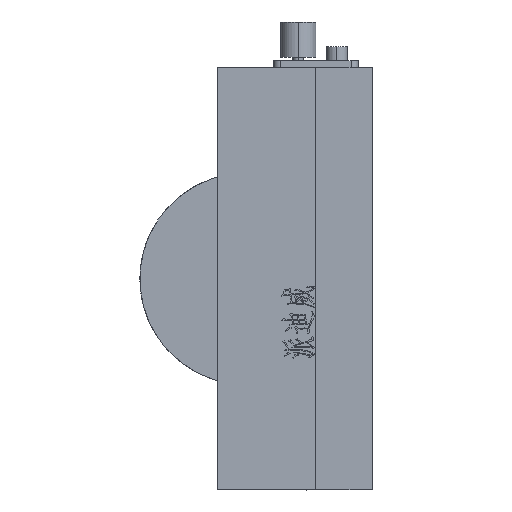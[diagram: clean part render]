
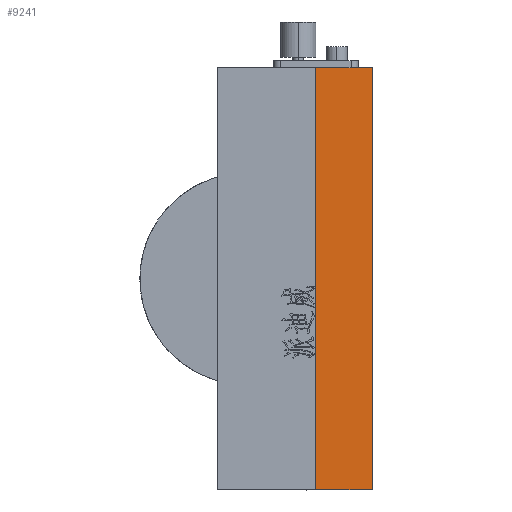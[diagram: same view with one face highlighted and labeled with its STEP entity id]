
A CAD part, left-side view. The second image highlights one B-rep face of the part: STEP entity #9241.
In plain terms, the highlighted planar face has unit normal (-1, 0, 0).
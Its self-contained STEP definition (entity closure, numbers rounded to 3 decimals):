
#1876 = AXIS2_PLACEMENT_3D ( 'NONE', #46115, #38418, #31311 ) ;
#5818 = ORIENTED_EDGE ( 'NONE', *, *, #13814, .T. ) ;
#9241 = ADVANCED_FACE ( 'NONE', ( #18880 ), #20887, .F. ) ;
#9386 = ORIENTED_EDGE ( 'NONE', *, *, #41448, .F. ) ;
#11198 = EDGE_CURVE ( 'NONE', #16312, #29770, #26873, .T. ) ;
#11235 = VECTOR ( 'NONE', #40251, 1000. ) ;
#11990 = ORIENTED_EDGE ( 'NONE', *, *, #11198, .T. ) ;
#13814 = EDGE_CURVE ( 'NONE', #29770, #38822, #33993, .T. ) ;
#16312 = VERTEX_POINT ( 'NONE', #36699 ) ;
#16961 = CARTESIAN_POINT ( 'NONE',  ( -30., 8., 30. ) ) ;
#17854 = DIRECTION ( 'NONE',  ( 0., 0., 1. ) ) ;
#18880 = FACE_OUTER_BOUND ( 'NONE', #34284, .T. ) ;
#18911 = DIRECTION ( 'NONE',  ( 0., 0., 1. ) ) ;
#19183 = CARTESIAN_POINT ( 'NONE',  ( -30., 0., 30. ) ) ;
#20832 = LINE ( 'NONE', #28918, #36128 ) ;
#20887 = PLANE ( 'NONE',  #1876 ) ;
#22297 = VERTEX_POINT ( 'NONE', #16961 ) ;
#22819 = EDGE_CURVE ( 'NONE', #22297, #38822, #43363, .T. ) ;
#25339 = ORIENTED_EDGE ( 'NONE', *, *, #22819, .F. ) ;
#25366 = DIRECTION ( 'NONE',  ( 0., -1., 0. ) ) ;
#25524 = VECTOR ( 'NONE', #18911, 1000. ) ;
#26873 = LINE ( 'NONE', #43800, #27419 ) ;
#27419 = VECTOR ( 'NONE', #25366, 1000. ) ;
#28918 = CARTESIAN_POINT ( 'NONE',  ( -30., 8., 30. ) ) ;
#29770 = VERTEX_POINT ( 'NONE', #34318 ) ;
#31311 = DIRECTION ( 'NONE',  ( 0., 0., -1. ) ) ;
#33993 = LINE ( 'NONE', #40673, #25524 ) ;
#34284 = EDGE_LOOP ( 'NONE', ( #5818, #25339, #9386, #11990 ) ) ;
#34318 = CARTESIAN_POINT ( 'NONE',  ( -30., 0., -30. ) ) ;
#36128 = VECTOR ( 'NONE', #17854, 1000. ) ;
#36641 = CARTESIAN_POINT ( 'NONE',  ( -30., 8., 30. ) ) ;
#36699 = CARTESIAN_POINT ( 'NONE',  ( -30., 8., -30. ) ) ;
#38418 = DIRECTION ( 'NONE',  ( 1., 0., 0. ) ) ;
#38822 = VERTEX_POINT ( 'NONE', #19183 ) ;
#40251 = DIRECTION ( 'NONE',  ( 0., -1., 0. ) ) ;
#40673 = CARTESIAN_POINT ( 'NONE',  ( -30., 0., 30. ) ) ;
#41448 = EDGE_CURVE ( 'NONE', #16312, #22297, #20832, .T. ) ;
#43363 = LINE ( 'NONE', #36641, #11235 ) ;
#43800 = CARTESIAN_POINT ( 'NONE',  ( -30., 8., -30. ) ) ;
#46115 = CARTESIAN_POINT ( 'NONE',  ( -30., 8., 30. ) ) ;
